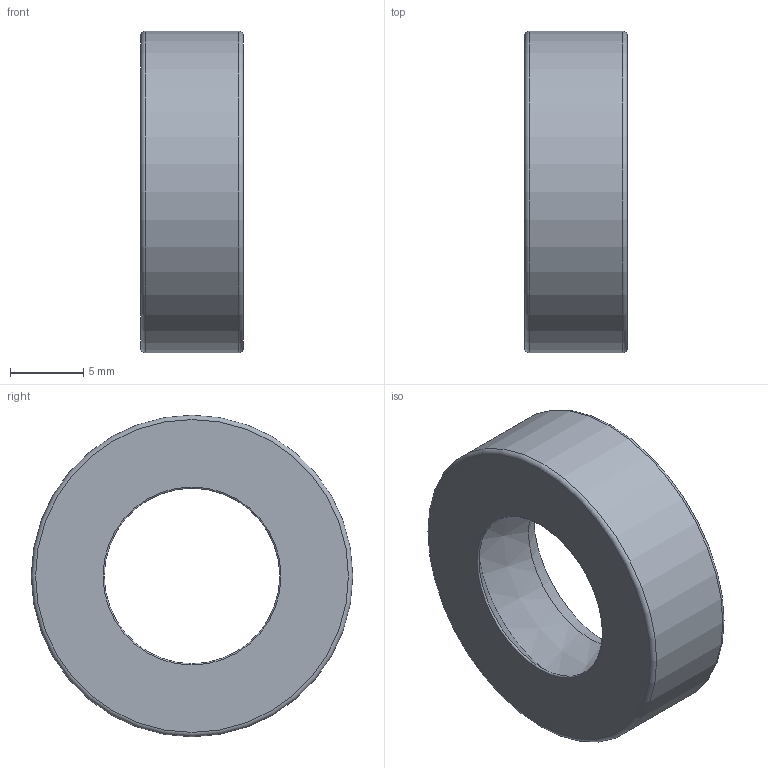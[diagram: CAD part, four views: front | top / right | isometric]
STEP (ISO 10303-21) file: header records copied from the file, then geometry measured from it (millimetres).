
FILE_DESCRIPTION(/* description */ ('오일-실'),/* implementation_level */ '2;1');
FILE_NAME(/* name */ '',/* time_stamp */ '2024-05-29T16:30:24+09:00',/* author */ ('jhkim'),/* organization */ (''),/* preprocessor_version */ 'ST-DEVELOPER v20',/* originating_system */ 'Autodesk Inventor 2025',/* authorisation */ '');
FILE_SCHEMA (('AUTOMOTIVE_DESIGN { 1 0 10303 214 3 1 1 }'));
Length unit declared in the file: millimetre
Products named in the file (1): 오일실 12 22 7
Bounding box: 7 x 22 x 22 mm (x, y, z)
Volume: 1348.2 mm3; surface area: 1850 mm2
Topology: 1 solids, 1 shells, 16 faces, 34 edges, 22 vertices
Faces by surface type: torus 5, plane 4, cone 4, cylinder 3
Full cylindrical faces by diameter (mm): 16.2 x1, 18.5 x1, 22 x1
Entity records: 496 total; most frequent: DIRECTION 95, CARTESIAN_POINT 73, ORIENTED_EDGE 68, AXIS2_PLACEMENT_3D 44, EDGE_CURVE 34, CIRCLE 27, VERTEX_POINT 22, EDGE_LOOP 20
